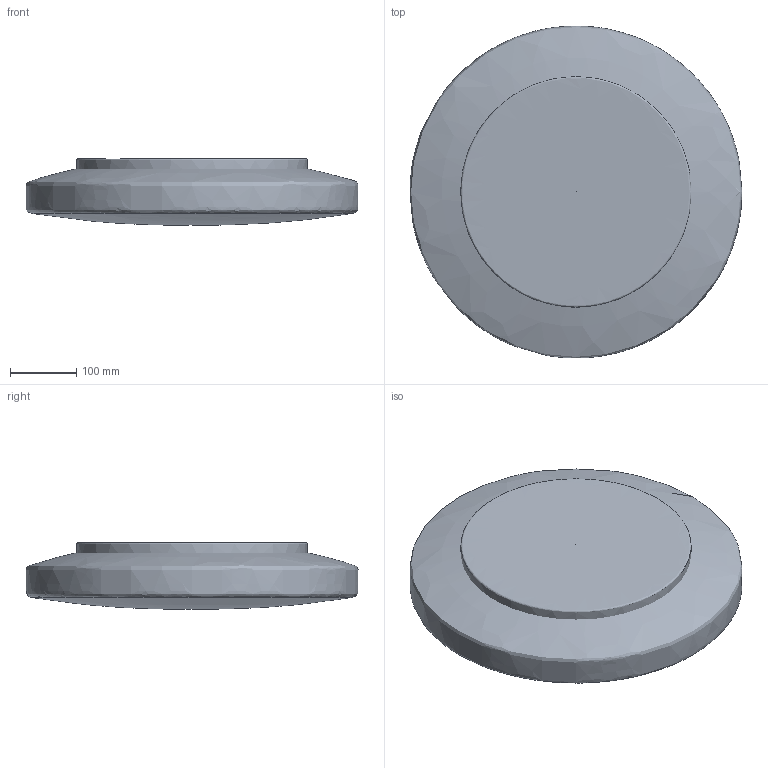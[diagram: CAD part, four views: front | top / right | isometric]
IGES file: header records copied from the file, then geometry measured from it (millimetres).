
Global section: file name: C:\Users\EQUIPO\Desktop\COLECCIONES ACB MODELADAS 3D OK\MOON\moon-969-50 (IGES).igs; native system: Rhinoceros ( Oct  8 2013 ); preprocessor: Trout Lake IGES 012 Oct  8 2013; date: 190207.111833; units: millimetre
Bounding box: 500.71 x 500.71 x 100.72 mm (x, y, z)
Surface area: 509269.4 mm2 (no closed solid volume)
Topology: 0 solids, 0 shells, 3 faces, 21 edges, 22 vertices
Faces by surface type: bspline 3
